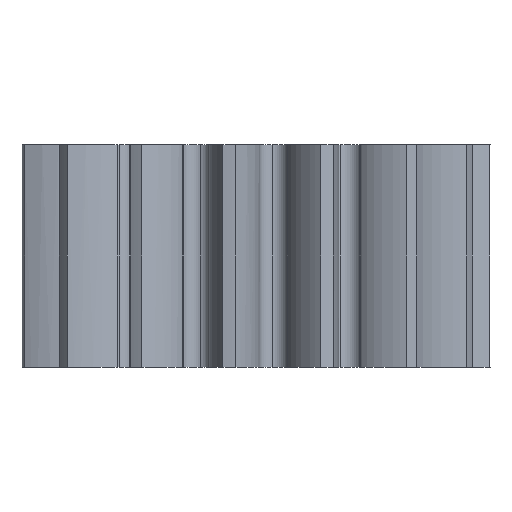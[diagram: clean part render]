
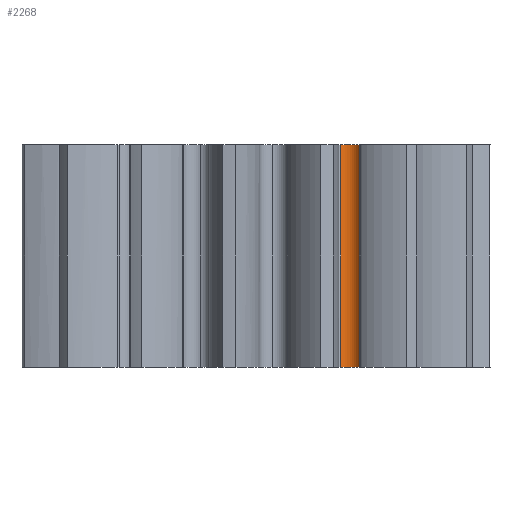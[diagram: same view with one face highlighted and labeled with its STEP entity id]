
A CAD part, front view. The second image highlights one B-rep face of the part: STEP entity #2268.
In plain terms, the highlighted cylindrical face has radius 0.5 mm (diameter 1 mm), a partial arc.
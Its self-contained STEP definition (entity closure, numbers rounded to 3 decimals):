
#164=FACE_OUTER_BOUND('',#286,.T.);
#286=EDGE_LOOP('',(#1637,#1638,#1639,#1640));
#441=LINE('',#6224,#621);
#442=LINE('',#6227,#622);
#621=VECTOR('',#2850,10.);
#622=VECTOR('',#2853,10.);
#766=CIRCLE('',#2445,0.5);
#822=CIRCLE('',#2505,0.5);
#899=VERTEX_POINT('',#4073);
#900=VERTEX_POINT('',#4075);
#1008=VERTEX_POINT('',#6223);
#1009=VERTEX_POINT('',#6225);
#1146=EDGE_CURVE('',#900,#899,#766,.T.);
#1258=EDGE_CURVE('',#899,#1008,#441,.T.);
#1259=EDGE_CURVE('',#1008,#1009,#822,.T.);
#1260=EDGE_CURVE('',#1009,#900,#442,.T.);
#1637=ORIENTED_EDGE('',*,*,#1146,.T.);
#1638=ORIENTED_EDGE('',*,*,#1258,.T.);
#1639=ORIENTED_EDGE('',*,*,#1259,.T.);
#1640=ORIENTED_EDGE('',*,*,#1260,.T.);
#2202=CYLINDRICAL_SURFACE('',#2504,0.5);
#2268=ADVANCED_FACE('',(#164),#2202,.F.);
#2445=AXIS2_PLACEMENT_3D('',#4076,#2700,#2701);
#2504=AXIS2_PLACEMENT_3D('',#6222,#2848,#2849);
#2505=AXIS2_PLACEMENT_3D('',#6226,#2851,#2852);
#2700=DIRECTION('center_axis',(0.,0.,-1.));
#2701=DIRECTION('ref_axis',(0.221,0.975,0.));
#2848=DIRECTION('center_axis',(0.,0.,1.));
#2849=DIRECTION('ref_axis',(0.221,0.975,0.));
#2850=DIRECTION('',(0.,0.,1.));
#2851=DIRECTION('center_axis',(0.,0.,1.));
#2852=DIRECTION('ref_axis',(0.221,0.975,0.));
#2853=DIRECTION('',(0.,0.,-1.));
#4073=CARTESIAN_POINT('',(3.79,-5.56,0.));
#4075=CARTESIAN_POINT('',(3.128,-5.41,0.));
#4076=CARTESIAN_POINT('Origin',(3.378,-5.843,0.));
#6222=CARTESIAN_POINT('Origin',(3.378,-5.843,0.));
#6223=CARTESIAN_POINT('',(3.79,-5.56,8.));
#6224=CARTESIAN_POINT('',(3.79,-5.56,0.));
#6225=CARTESIAN_POINT('',(3.128,-5.41,8.));
#6226=CARTESIAN_POINT('Origin',(3.378,-5.843,8.));
#6227=CARTESIAN_POINT('',(3.128,-5.41,0.));
